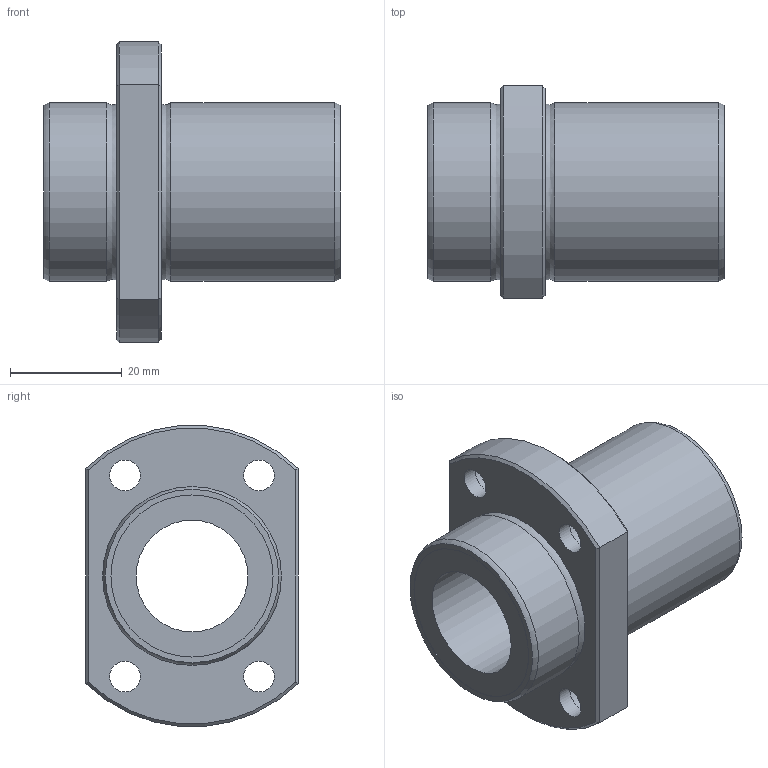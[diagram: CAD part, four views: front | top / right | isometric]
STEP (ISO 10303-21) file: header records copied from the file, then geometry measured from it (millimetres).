
FILE_DESCRIPTION((''),'2;1');
FILE_NAME('C:\Documents and Settings\土屋\My Documents\土屋移動用フォルダ\製品 (図面)\カタログ用3D\変換ファイル\OZAK_3D-CAD(STEP形式)\Part1.-Linear Bearings_ﾘﾆｱﾍﾞｱﾘﾝｸﾞ\09_Maintenance Free_ﾒｲﾝﾃﾅﾝｽﾌﾘｰ\L2017-09-21T13:48:37','2017-09-21T13:48:37',('y'),(''),'Autodesk Inventor 11','Autodesk Inventor 11','');
FILE_SCHEMA(('AUTOMOTIVE_DESIGN { 1 0 10303 214 1 1 1 1 }'));
Length unit declared in the file: millimetre
Products named in the file (1): LFTB-MF
Bounding box: 53 x 38 x 53.8 mm (x, y, z)
Volume: 32615.9 mm3; surface area: 12741.5 mm2
Topology: 1 solids, 1 shells, 39 faces, 75 edges, 46 vertices
Faces by surface type: bspline 14, plane 12, cylinder 7, cone 4, torus 2
Full cylindrical faces by diameter (mm): 20 x1, 29 x2, 32 x2
Entity records: 1177 total; most frequent: CARTESIAN_POINT 440, DIRECTION 140, ORIENTED_EDGE 116, EDGE_LOOP 74, AXIS2_PLACEMENT_3D 64, EDGE_CURVE 58, VERTEX_POINT 46, FACE_OUTER_BOUND 39
